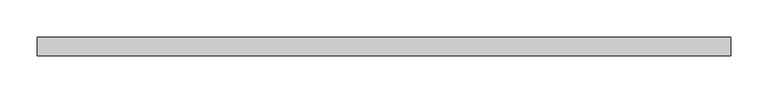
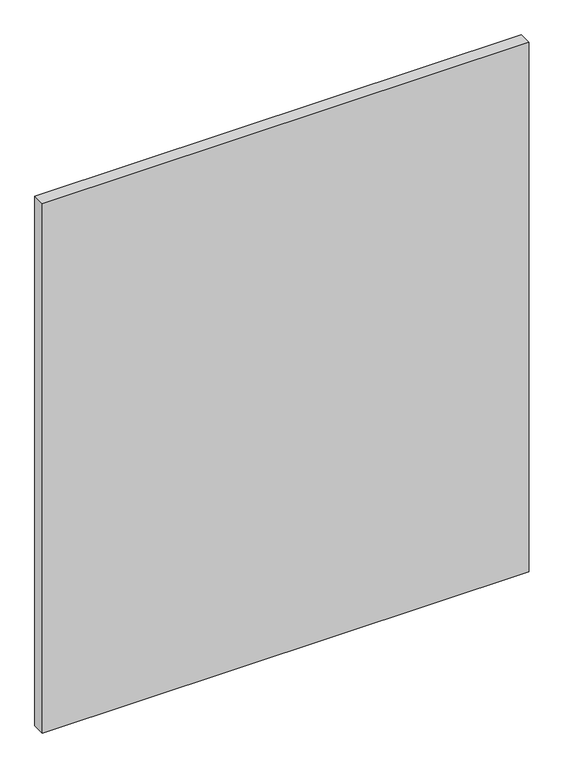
"""IFC4 building model written with IfcOpenShell, lengths in millimetres: plate geometry, 系統嵌板 : 有玻璃的."""

from ifc_helpers import new_model, si_unit, origin, origin_with_axes, place, context, project, spatial, polyline, outline, extrude, source, transform, mapped, element, save


def plate_09d56e0c(model_context):
    return source(origin(), model_context, "Body", "SweptSolid", [
        extrude(outline(polyline([(467.5, 24.5), (-467.5, 24.5), (-467.5, 49.5), (467.5, 49.5), (467.5, 24.5)])), origin_with_axes(), (0.0, 0.0, 1.0), 1074.8779336),
    ])


if __name__ == "__main__":
    model = new_model("IFC4")
    model_context = context("Model", 3, world=origin())
    ifc_project = project(units=[si_unit("LENGTHUNIT", "METRE", prefix="MILLI")], contexts=[model_context])
    site = spatial("IfcSite", under=ifc_project)
    building = spatial("IfcBuilding", under=site)
    placement = place(None, origin())
    plate_shape = plate_09d56e0c(model_context)
    element("IfcPlate", 1, ObjectType="系統嵌板 : 有玻璃的", at=placement, inside=building, context=model_context, shape_type="MappedRepresentation", body=[
        mapped(plate_shape, transform((0.0, 0.0, 0.0), x_axis=(1.0, 0.0, 0.0), y_axis=(0.0, 1.0, 0.0), z_axis=(0.0, 0.0, 1.0))),
    ])
    save(model, "model.ifc")
